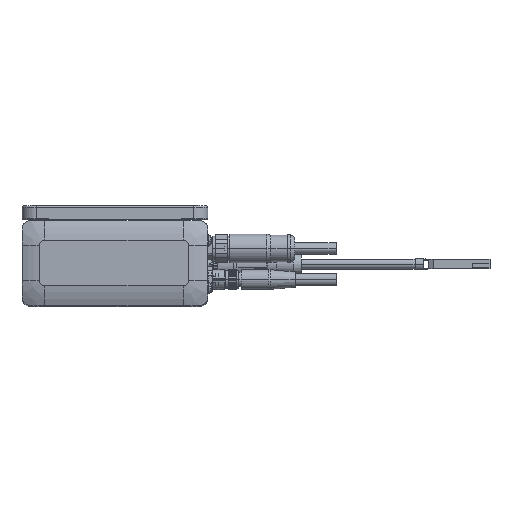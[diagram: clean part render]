
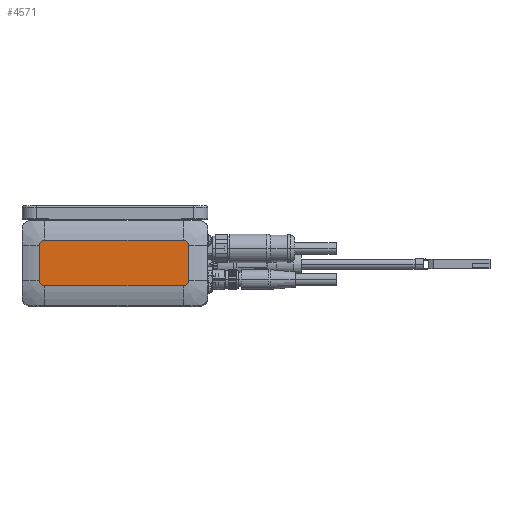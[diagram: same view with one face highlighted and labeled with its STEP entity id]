
A CAD part, top view. The second image highlights one B-rep face of the part: STEP entity #4571.
In plain terms, the highlighted planar face has unit normal (0, 0, 1).
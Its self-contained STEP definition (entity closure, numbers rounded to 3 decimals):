
#2177=DIRECTION('',(1.,0.,0.));
#2178=VECTOR('',#2177,66.986);
#2179=CARTESIAN_POINT('',(-33.986,11.016,143.));
#2180=LINE('',#2179,#2178);
#2184=CARTESIAN_POINT('',(33.,8.5,143.));
#2185=DIRECTION('',(0.,0.,-1.));
#2186=DIRECTION('',(0.,1.,0.));
#2187=AXIS2_PLACEMENT_3D('',#2184,#2185,#2186);
#2192=DIRECTION('',(0.,-1.,0.));
#2193=VECTOR('',#2192,17.);
#2194=CARTESIAN_POINT('',(35.516,8.5,143.));
#2195=LINE('',#2194,#2193);
#2199=CARTESIAN_POINT('',(33.,-8.5,143.));
#2200=DIRECTION('',(0.,0.,-1.));
#2201=DIRECTION('',(1.,0.,0.));
#2202=AXIS2_PLACEMENT_3D('',#2199,#2200,#2201);
#2207=DIRECTION('',(-1.,0.,0.));
#2208=VECTOR('',#2207,66.986);
#2209=CARTESIAN_POINT('',(33.,-11.016,143.));
#2210=LINE('',#2209,#2208);
#2214=CARTESIAN_POINT('',(-33.986,-8.5,143.));
#2215=DIRECTION('',(0.,0.,-1.));
#2216=DIRECTION('',(0.,-1.,0.));
#2217=AXIS2_PLACEMENT_3D('',#2214,#2215,#2216);
#2222=DIRECTION('',(0.,1.,0.));
#2223=VECTOR('',#2222,17.);
#2224=CARTESIAN_POINT('',(-36.501,-8.5,143.));
#2225=LINE('',#2224,#2223);
#2229=CARTESIAN_POINT('',(-33.986,8.5,143.));
#2230=DIRECTION('',(0.,0.,-1.));
#2231=DIRECTION('',(-1.,0.,0.));
#2232=AXIS2_PLACEMENT_3D('',#2229,#2230,#2231);
#3895=CARTESIAN_POINT('',(-33.986,11.016,143.));
#3896=CARTESIAN_POINT('',(33.,11.016,143.));
#3897=VERTEX_POINT('',#3895);
#3898=VERTEX_POINT('',#3896);
#3899=CARTESIAN_POINT('',(35.516,8.5,143.));
#3900=VERTEX_POINT('',#3899);
#3901=CARTESIAN_POINT('',(35.516,-8.5,143.));
#3902=VERTEX_POINT('',#3901);
#3903=CARTESIAN_POINT('',(33.,-11.016,143.));
#3904=VERTEX_POINT('',#3903);
#3905=CARTESIAN_POINT('',(-33.986,-11.016,143.));
#3906=VERTEX_POINT('',#3905);
#3907=CARTESIAN_POINT('',(-36.501,-8.5,143.));
#3908=VERTEX_POINT('',#3907);
#3909=CARTESIAN_POINT('',(-36.501,8.5,143.));
#3910=VERTEX_POINT('',#3909);
#4550=CARTESIAN_POINT('',(0.,0.,143.));
#4551=DIRECTION('',(0.,0.,1.));
#4552=DIRECTION('',(1.,0.,0.));
#4553=AXIS2_PLACEMENT_3D('',#4550,#4551,#4552);
#4554=PLANE('',#4553);
#4556=ORIENTED_EDGE('',*,*,#4555,.T.);
#4557=ORIENTED_EDGE('',*,*,#4528,.T.);
#4558=ORIENTED_EDGE('',*,*,#4541,.T.);
#4560=ORIENTED_EDGE('',*,*,#4559,.T.);
#4562=ORIENTED_EDGE('',*,*,#4561,.T.);
#4564=ORIENTED_EDGE('',*,*,#4563,.T.);
#4566=ORIENTED_EDGE('',*,*,#4565,.T.);
#4568=ORIENTED_EDGE('',*,*,#4567,.T.);
#4569=EDGE_LOOP('',(#4556,#4557,#4558,#4560,#4562,#4564,#4566,#4568));
#4570=FACE_OUTER_BOUND('',#4569,.F.);
#2188=CIRCLE('',#2187,2.516);
#2203=CIRCLE('',#2202,2.516);
#2218=CIRCLE('',#2217,2.516);
#2233=CIRCLE('',#2232,2.516);
#4528=EDGE_CURVE('',#3898,#3900,#2188,.T.);
#4541=EDGE_CURVE('',#3900,#3902,#2195,.T.);
#4555=EDGE_CURVE('',#3897,#3898,#2180,.T.);
#4559=EDGE_CURVE('',#3902,#3904,#2203,.T.);
#4561=EDGE_CURVE('',#3904,#3906,#2210,.T.);
#4563=EDGE_CURVE('',#3906,#3908,#2218,.T.);
#4565=EDGE_CURVE('',#3908,#3910,#2225,.T.);
#4567=EDGE_CURVE('',#3910,#3897,#2233,.T.);
#4571=ADVANCED_FACE('',(#4570),#4554,.T.);
